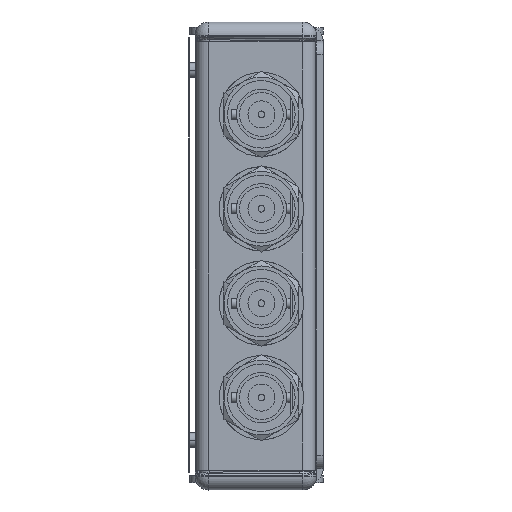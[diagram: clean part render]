
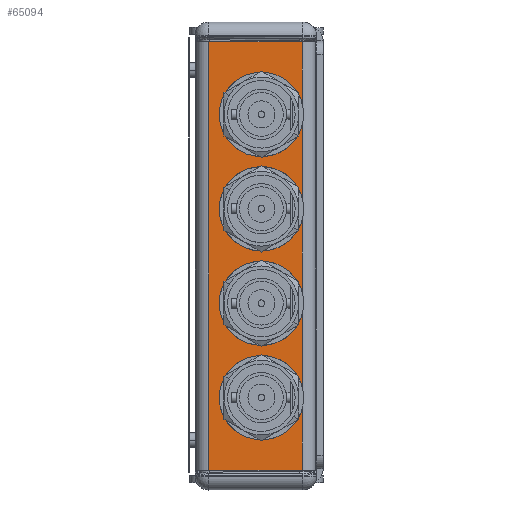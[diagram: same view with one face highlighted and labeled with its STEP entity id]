
A CAD part, left-side view. The second image highlights one B-rep face of the part: STEP entity #65094.
In plain terms, the highlighted planar face has unit normal (-1, 0, 0.001).
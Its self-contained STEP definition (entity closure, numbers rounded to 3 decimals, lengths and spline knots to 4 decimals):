
#22315=DIRECTION('',(-0.001,0.,-1.));
#22316=VECTOR('',#22315,3.179);
#22317=CARTESIAN_POINT('',(-3.7376,-0.14,-0.043));
#22318=LINE('',#22317,#22316);
#22333=CARTESIAN_POINT('',(-3.7391,-0.5295,-2.683));
#22334=DIRECTION('',(-1.,0.,0.001));
#22335=DIRECTION('',(0.,-0.966,0.258));
#22336=AXIS2_PLACEMENT_3D('',#22333,#22334,#22335);
#22338=CARTESIAN_POINT('',(-3.7391,-0.5295,-2.683));
#22339=DIRECTION('',(-1.,0.,0.001));
#22340=DIRECTION('',(0.,1.,0.));
#22341=AXIS2_PLACEMENT_3D('',#22338,#22339,#22340);
#22343=CARTESIAN_POINT('',(-3.7379,-0.5295,-0.583));
#22344=DIRECTION('',(-1.,0.,0.001));
#22345=DIRECTION('',(0.,-0.966,0.258));
#22346=AXIS2_PLACEMENT_3D('',#22343,#22344,#22345);
#22348=CARTESIAN_POINT('',(-3.7379,-0.5295,-0.583));
#22349=DIRECTION('',(-1.,0.,0.001));
#22350=DIRECTION('',(0.,1.,0.));
#22351=AXIS2_PLACEMENT_3D('',#22348,#22349,#22350);
#22353=CARTESIAN_POINT('',(-3.7383,-0.5295,-1.283));
#22354=DIRECTION('',(-1.,0.,0.001));
#22355=DIRECTION('',(0.,-0.966,0.258));
#22356=AXIS2_PLACEMENT_3D('',#22353,#22354,#22355);
#22358=CARTESIAN_POINT('',(-3.7383,-0.5295,-1.283));
#22359=DIRECTION('',(-1.,0.,0.001));
#22360=DIRECTION('',(0.,1.,0.));
#22361=AXIS2_PLACEMENT_3D('',#22358,#22359,#22360);
#22363=CARTESIAN_POINT('',(-3.7387,-0.5295,-1.983));
#22364=DIRECTION('',(-1.,0.,0.001));
#22365=DIRECTION('',(0.,-0.966,0.258));
#22366=AXIS2_PLACEMENT_3D('',#22363,#22364,#22365);
#22368=CARTESIAN_POINT('',(-3.7387,-0.5295,-1.983));
#22369=DIRECTION('',(-1.,0.,0.001));
#22370=DIRECTION('',(0.,1.,0.));
#22371=AXIS2_PLACEMENT_3D('',#22368,#22369,#22370);
#22391=DIRECTION('',(-0.001,0.,-1.));
#22392=VECTOR('',#22391,0.5389);
#22393=CARTESIAN_POINT('',(-3.7387,-0.8314,
-2.0636));
#22394=LINE('',#22393,#22392);
#22399=DIRECTION('',(-0.001,0.,-1.));
#22400=VECTOR('',#22399,0.5389);
#22401=CARTESIAN_POINT('',(-3.7383,-0.8314,
-1.3636));
#22402=LINE('',#22401,#22400);
#22407=DIRECTION('',(-0.001,0.,-1.));
#22408=VECTOR('',#22407,0.5389);
#22409=CARTESIAN_POINT('',(-3.7379,-0.8314,
-0.6636));
#22410=LINE('',#22409,#22408);
#22415=DIRECTION('',(-0.001,0.,-1.));
#22416=VECTOR('',#22415,0.4595);
#22417=CARTESIAN_POINT('',(-3.7376,-0.8314,
-0.043));
#22418=LINE('',#22417,#22416);
#22433=DIRECTION('',(-0.001,0.,-1.));
#22434=VECTOR('',#22433,0.4585);
#22435=CARTESIAN_POINT('',(-3.7391,-0.8314,
-2.7636));
#22436=LINE('',#22435,#22434);
#23107=DIRECTION('',(0.,-1.,0.));
#23108=VECTOR('',#23107,0.6914);
#23109=CARTESIAN_POINT('',(-3.7376,-0.14,-0.043));
#23110=LINE('',#23109,#23108);
#23217=DIRECTION('',(0.,-1.,0.));
#23218=VECTOR('',#23217,0.6914);
#23219=CARTESIAN_POINT('',(-3.7394,-0.14,-3.222));
#23220=LINE('',#23219,#23218);
#36126=CARTESIAN_POINT('',(-3.7394,-0.14,-3.222));
#36127=CARTESIAN_POINT('',(-3.7394,-0.8314,
-3.222));
#36128=VERTEX_POINT('',#36126);
#36129=VERTEX_POINT('',#36127);
#36130=CARTESIAN_POINT('',(-3.7376,-0.14,-0.043));
#36131=CARTESIAN_POINT('',(-3.7376,-0.8314,
-0.043));
#36132=VERTEX_POINT('',#36130);
#36133=VERTEX_POINT('',#36131);
#36518=CARTESIAN_POINT('',(-3.7378,-0.8314,
-0.5025));
#36519=CARTESIAN_POINT('',(-3.7379,-0.217,-0.583));
#36520=VERTEX_POINT('',#36518);
#36521=VERTEX_POINT('',#36519);
#36522=CARTESIAN_POINT('',(-3.7379,-0.8314,
-0.6636));
#36523=VERTEX_POINT('',#36522);
#36542=CARTESIAN_POINT('',(-3.7382,-0.8314,
-1.2025));
#36543=CARTESIAN_POINT('',(-3.7383,-0.217,-1.283));
#36544=VERTEX_POINT('',#36542);
#36545=VERTEX_POINT('',#36543);
#36546=CARTESIAN_POINT('',(-3.7383,-0.8314,
-1.3636));
#36547=VERTEX_POINT('',#36546);
#36566=CARTESIAN_POINT('',(-3.7386,-0.8314,
-1.9025));
#36567=CARTESIAN_POINT('',(-3.7387,-0.217,-1.983));
#36568=VERTEX_POINT('',#36566);
#36569=VERTEX_POINT('',#36567);
#36570=CARTESIAN_POINT('',(-3.7387,-0.8314,
-2.0636));
#36571=VERTEX_POINT('',#36570);
#36590=CARTESIAN_POINT('',(-3.7391,-0.8314,
-2.6025));
#36591=CARTESIAN_POINT('',(-3.7391,-0.217,-2.683));
#36592=VERTEX_POINT('',#36590);
#36593=VERTEX_POINT('',#36591);
#36594=CARTESIAN_POINT('',(-3.7391,-0.8314,
-2.7636));
#36595=VERTEX_POINT('',#36594);
#65056=CARTESIAN_POINT('',(-3.7376,-0.04,
-0.043));
#65057=DIRECTION('',(-1.,0.,0.001));
#65058=DIRECTION('',(0.,-1.,0.));
#65059=AXIS2_PLACEMENT_3D('',#65056,#65057,#65058);
#65060=PLANE('',#65059);
#65062=ORIENTED_EDGE('',*,*,#65061,.T.);
#65064=ORIENTED_EDGE('',*,*,#65063,.T.);
#65066=ORIENTED_EDGE('',*,*,#65065,.T.);
#65068=ORIENTED_EDGE('',*,*,#65067,.F.);
#65069=ORIENTED_EDGE('',*,*,#65047,.F.);
#65071=ORIENTED_EDGE('',*,*,#65070,.T.);
#65073=ORIENTED_EDGE('',*,*,#65072,.T.);
#65075=ORIENTED_EDGE('',*,*,#65074,.T.);
#65077=ORIENTED_EDGE('',*,*,#65076,.T.);
#65079=ORIENTED_EDGE('',*,*,#65078,.T.);
#65081=ORIENTED_EDGE('',*,*,#65080,.T.);
#65083=ORIENTED_EDGE('',*,*,#65082,.T.);
#65085=ORIENTED_EDGE('',*,*,#65084,.T.);
#65087=ORIENTED_EDGE('',*,*,#65086,.T.);
#65089=ORIENTED_EDGE('',*,*,#65088,.T.);
#65091=ORIENTED_EDGE('',*,*,#65090,.T.);
#65092=EDGE_LOOP('',(#65062,#65064,#65066,#65068,#65069,#65071,#65073,#65075,
#65077,#65079,#65081,#65083,#65085,#65087,#65089,#65091));
#65093=FACE_OUTER_BOUND('',#65092,.F.);
#65094=ADVANCED_FACE('',(#65093),#65060,.T.);
#22337=CIRCLE('',#22336,0.3125);
#22342=CIRCLE('',#22341,0.3125);
#22347=CIRCLE('',#22346,0.3125);
#22352=CIRCLE('',#22351,0.3125);
#22357=CIRCLE('',#22356,0.3125);
#22362=CIRCLE('',#22361,0.3125);
#22367=CIRCLE('',#22366,0.3125);
#22372=CIRCLE('',#22371,0.3125);
#65047=EDGE_CURVE('',#36132,#36128,#22318,.T.);
#65061=EDGE_CURVE('',#36592,#36593,#22337,.T.);
#65063=EDGE_CURVE('',#36593,#36595,#22342,.T.);
#65065=EDGE_CURVE('',#36595,#36129,#22436,.T.);
#65067=EDGE_CURVE('',#36128,#36129,#23220,.T.);
#65070=EDGE_CURVE('',#36132,#36133,#23110,.T.);
#65072=EDGE_CURVE('',#36133,#36520,#22418,.T.);
#65074=EDGE_CURVE('',#36520,#36521,#22347,.T.);
#65076=EDGE_CURVE('',#36521,#36523,#22352,.T.);
#65078=EDGE_CURVE('',#36523,#36544,#22410,.T.);
#65080=EDGE_CURVE('',#36544,#36545,#22357,.T.);
#65082=EDGE_CURVE('',#36545,#36547,#22362,.T.);
#65084=EDGE_CURVE('',#36547,#36568,#22402,.T.);
#65086=EDGE_CURVE('',#36568,#36569,#22367,.T.);
#65088=EDGE_CURVE('',#36569,#36571,#22372,.T.);
#65090=EDGE_CURVE('',#36571,#36592,#22394,.T.);
